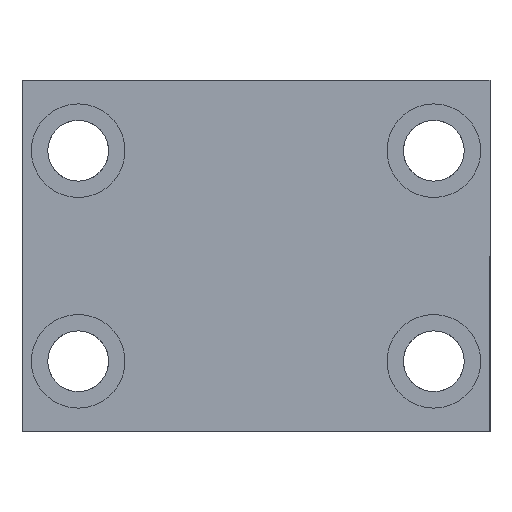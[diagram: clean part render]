
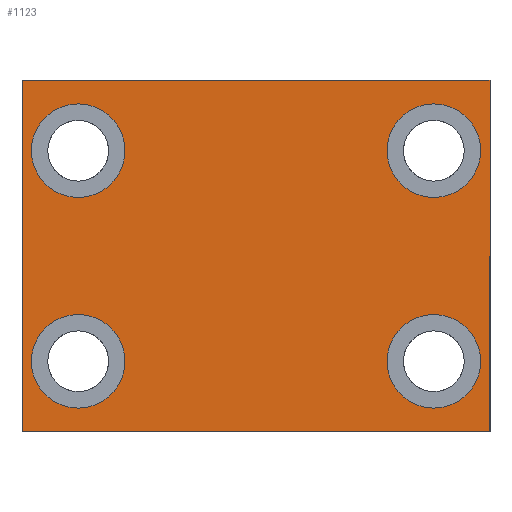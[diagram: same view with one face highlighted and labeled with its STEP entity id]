
A CAD part, front view. The second image highlights one B-rep face of the part: STEP entity #1123.
In plain terms, the highlighted planar face has unit normal (0, -1, 0).
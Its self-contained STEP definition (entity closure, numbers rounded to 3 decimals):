
#28 = EDGE_LOOP ( 'NONE', ( #1375, #1045 ) ) ;
#42 = CIRCLE ( 'NONE', #3309, 10. ) ;
#122 = VERTEX_POINT ( 'NONE', #1120 ) ;
#153 = CARTESIAN_POINT ( 'NONE',  ( 38., 0., 22.5 ) ) ;
#155 = CARTESIAN_POINT ( 'NONE',  ( -50., 0., 37.5 ) ) ;
#224 = AXIS2_PLACEMENT_3D ( 'NONE', #1113, #3032, #1390 ) ;
#246 = VERTEX_POINT ( 'NONE', #3100 ) ;
#266 = FACE_OUTER_BOUND ( 'NONE', #3155, .T. ) ;
#347 = AXIS2_PLACEMENT_3D ( 'NONE', #3131, #1486, #3398 ) ;
#403 = ORIENTED_EDGE ( 'NONE', *, *, #2812, .F. ) ;
#423 = DIRECTION ( 'NONE',  ( 0., 0., -1. ) ) ;
#539 = VERTEX_POINT ( 'NONE', #2985 ) ;
#540 = CARTESIAN_POINT ( 'NONE',  ( 0., 0., 0. ) ) ;
#550 = CARTESIAN_POINT ( 'NONE',  ( -50., 0., -37.5 ) ) ;
#594 = AXIS2_PLACEMENT_3D ( 'NONE', #540, #2457, #809 ) ;
#653 = VECTOR ( 'NONE', #3059, 1000. ) ;
#683 = ORIENTED_EDGE ( 'NONE', *, *, #3123, .F. ) ;
#731 = CIRCLE ( 'NONE', #3030, 10. ) ;
#736 = EDGE_CURVE ( 'NONE', #1585, #246, #731, .T. ) ;
#780 = CARTESIAN_POINT ( 'NONE',  ( 50., 0., -37.5 ) ) ;
#809 = DIRECTION ( 'NONE',  ( 0., 0., 1. ) ) ;
#818 = DIRECTION ( 'NONE',  ( 0., -1., 0. ) ) ;
#827 = CARTESIAN_POINT ( 'NONE',  ( 50., 0., 37.5 ) ) ;
#849 = EDGE_CURVE ( 'NONE', #3345, #1746, #1945, .T. ) ;
#888 = LINE ( 'NONE', #2737, #1539 ) ;
#979 = ORIENTED_EDGE ( 'NONE', *, *, #1208, .F. ) ;
#981 = FACE_BOUND ( 'NONE', #1739, .T. ) ;
#986 = DIRECTION ( 'NONE',  ( 0., 0., -1. ) ) ;
#997 = CARTESIAN_POINT ( 'NONE',  ( 38., 0., 12.5 ) ) ;
#1019 = VECTOR ( 'NONE', #1735, 1000. ) ;
#1045 = ORIENTED_EDGE ( 'NONE', *, *, #2368, .F. ) ;
#1068 = FACE_BOUND ( 'NONE', #28, .T. ) ;
#1113 = CARTESIAN_POINT ( 'NONE',  ( -38., 0., -22.5 ) ) ;
#1120 = CARTESIAN_POINT ( 'NONE',  ( 38., 0., -32.5 ) ) ;
#1123 = ADVANCED_FACE ( 'NONE', ( #1068, #3173, #1727, #981, #266 ), #1909, .F. ) ;
#1191 = CIRCLE ( 'NONE', #224, 10. ) ;
#1208 = EDGE_CURVE ( 'NONE', #1595, #122, #1545, .T. ) ;
#1253 = EDGE_CURVE ( 'NONE', #2618, #2258, #1367, .T. ) ;
#1260 = EDGE_LOOP ( 'NONE', ( #2977, #1641 ) ) ;
#1319 = CIRCLE ( 'NONE', #2888, 10. ) ;
#1367 = LINE ( 'NONE', #2773, #653 ) ;
#1375 = ORIENTED_EDGE ( 'NONE', *, *, #2527, .F. ) ;
#1390 = DIRECTION ( 'NONE',  ( 0., 0., -1. ) ) ;
#1391 = CARTESIAN_POINT ( 'NONE',  ( 38., 0., -22.5 ) ) ;
#1449 = CARTESIAN_POINT ( 'NONE',  ( 38., 0., 22.5 ) ) ;
#1458 = DIRECTION ( 'NONE',  ( 0., -1., 0. ) ) ;
#1486 = DIRECTION ( 'NONE',  ( 0., -1., 0. ) ) ;
#1514 = ORIENTED_EDGE ( 'NONE', *, *, #849, .F. ) ;
#1536 = DIRECTION ( 'NONE',  ( 0., -1., 0. ) ) ;
#1537 = EDGE_CURVE ( 'NONE', #539, #3148, #1319, .T. ) ;
#1539 = VECTOR ( 'NONE', #3286, 1000. ) ;
#1545 = CIRCLE ( 'NONE', #1686, 10. ) ;
#1585 = VERTEX_POINT ( 'NONE', #997 ) ;
#1595 = VERTEX_POINT ( 'NONE', #2660 ) ;
#1641 = ORIENTED_EDGE ( 'NONE', *, *, #1969, .F. ) ;
#1675 = DIRECTION ( 'NONE',  ( 0., 0., -1. ) ) ;
#1686 = AXIS2_PLACEMENT_3D ( 'NONE', #1391, #3308, #1675 ) ;
#1727 = FACE_BOUND ( 'NONE', #1260, .T. ) ;
#1731 = ORIENTED_EDGE ( 'NONE', *, *, #3541, .F. ) ;
#1734 = EDGE_CURVE ( 'NONE', #122, #1595, #2814, .T. ) ;
#1735 = DIRECTION ( 'NONE',  ( -1., 0., 0. ) ) ;
#1739 = EDGE_LOOP ( 'NONE', ( #683, #1837 ) ) ;
#1746 = VERTEX_POINT ( 'NONE', #550 ) ;
#1837 = ORIENTED_EDGE ( 'NONE', *, *, #1537, .F. ) ;
#1842 = VECTOR ( 'NONE', #2437, 1000. ) ;
#1862 = AXIS2_PLACEMENT_3D ( 'NONE', #3102, #1458, #3368 ) ;
#1909 = PLANE ( 'NONE',  #594 ) ;
#1918 = VERTEX_POINT ( 'NONE', #2570 ) ;
#1945 = LINE ( 'NONE', #2277, #1019 ) ;
#1969 = EDGE_CURVE ( 'NONE', #246, #1585, #42, .T. ) ;
#2023 = CARTESIAN_POINT ( 'NONE',  ( -38., 0., 12.5 ) ) ;
#2066 = DIRECTION ( 'NONE',  ( 0., -1., 0. ) ) ;
#2112 = CARTESIAN_POINT ( 'NONE',  ( 50., 0., -37.5 ) ) ;
#2258 = VERTEX_POINT ( 'NONE', #827 ) ;
#2277 = CARTESIAN_POINT ( 'NONE',  ( -50., 0., -37.5 ) ) ;
#2345 = VERTEX_POINT ( 'NONE', #2477 ) ;
#2368 = EDGE_CURVE ( 'NONE', #2345, #1918, #1191, .T. ) ;
#2437 = DIRECTION ( 'NONE',  ( 0., 0., -1. ) ) ;
#2457 = DIRECTION ( 'NONE',  ( 0., 1., 0. ) ) ;
#2464 = CARTESIAN_POINT ( 'NONE',  ( 38., 0., -22.5 ) ) ;
#2477 = CARTESIAN_POINT ( 'NONE',  ( -38., 0., -12.5 ) ) ;
#2527 = EDGE_CURVE ( 'NONE', #1918, #2345, #2848, .T. ) ;
#2555 = LINE ( 'NONE', #780, #1842 ) ;
#2570 = CARTESIAN_POINT ( 'NONE',  ( -38., 0., -32.5 ) ) ;
#2618 = VERTEX_POINT ( 'NONE', #155 ) ;
#2660 = CARTESIAN_POINT ( 'NONE',  ( 38., 0., -12.5 ) ) ;
#2717 = DIRECTION ( 'NONE',  ( 0., 0., -1. ) ) ;
#2737 = CARTESIAN_POINT ( 'NONE',  ( -50., 0., -37.5 ) ) ;
#2773 = CARTESIAN_POINT ( 'NONE',  ( -50., 0., 37.5 ) ) ;
#2812 = EDGE_CURVE ( 'NONE', #2258, #3345, #2555, .T. ) ;
#2814 = CIRCLE ( 'NONE', #3196, 10. ) ;
#2848 = CIRCLE ( 'NONE', #347, 10. ) ;
#2863 = EDGE_LOOP ( 'NONE', ( #2967, #979 ) ) ;
#2877 = DIRECTION ( 'NONE',  ( 0., -1., 0. ) ) ;
#2888 = AXIS2_PLACEMENT_3D ( 'NONE', #3180, #1536, #3440 ) ;
#2967 = ORIENTED_EDGE ( 'NONE', *, *, #1734, .F. ) ;
#2977 = ORIENTED_EDGE ( 'NONE', *, *, #736, .F. ) ;
#2985 = CARTESIAN_POINT ( 'NONE',  ( -38., 0., 32.5 ) ) ;
#3030 = AXIS2_PLACEMENT_3D ( 'NONE', #1449, #2877, #986 ) ;
#3032 = DIRECTION ( 'NONE',  ( 0., -1., 0. ) ) ;
#3059 = DIRECTION ( 'NONE',  ( 1., 0., 0. ) ) ;
#3100 = CARTESIAN_POINT ( 'NONE',  ( 38., 0., 32.5 ) ) ;
#3102 = CARTESIAN_POINT ( 'NONE',  ( -38., 0., 22.5 ) ) ;
#3123 = EDGE_CURVE ( 'NONE', #3148, #539, #3380, .T. ) ;
#3131 = CARTESIAN_POINT ( 'NONE',  ( -38., 0., -22.5 ) ) ;
#3148 = VERTEX_POINT ( 'NONE', #2023 ) ;
#3155 = EDGE_LOOP ( 'NONE', ( #403, #3392, #1731, #1514 ) ) ;
#3173 = FACE_BOUND ( 'NONE', #2863, .T. ) ;
#3180 = CARTESIAN_POINT ( 'NONE',  ( -38., 0., 22.5 ) ) ;
#3196 = AXIS2_PLACEMENT_3D ( 'NONE', #2464, #818, #2717 ) ;
#3286 = DIRECTION ( 'NONE',  ( 0., 0., 1. ) ) ;
#3308 = DIRECTION ( 'NONE',  ( 0., -1., 0. ) ) ;
#3309 = AXIS2_PLACEMENT_3D ( 'NONE', #153, #2066, #423 ) ;
#3345 = VERTEX_POINT ( 'NONE', #2112 ) ;
#3368 = DIRECTION ( 'NONE',  ( 0., 0., -1. ) ) ;
#3380 = CIRCLE ( 'NONE', #1862, 10. ) ;
#3392 = ORIENTED_EDGE ( 'NONE', *, *, #1253, .F. ) ;
#3398 = DIRECTION ( 'NONE',  ( 0., 0., -1. ) ) ;
#3440 = DIRECTION ( 'NONE',  ( 0., 0., -1. ) ) ;
#3541 = EDGE_CURVE ( 'NONE', #1746, #2618, #888, .T. ) ;
